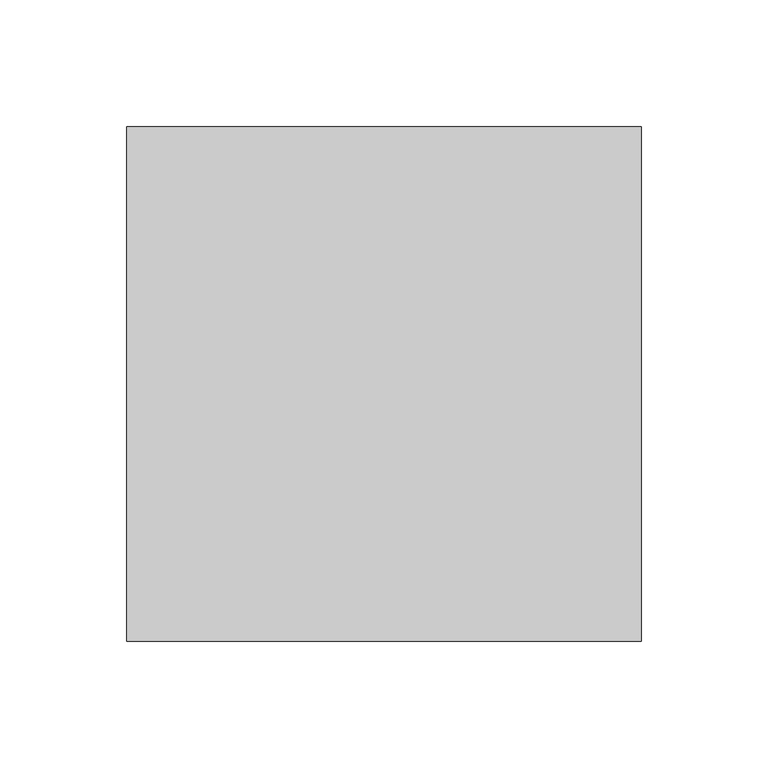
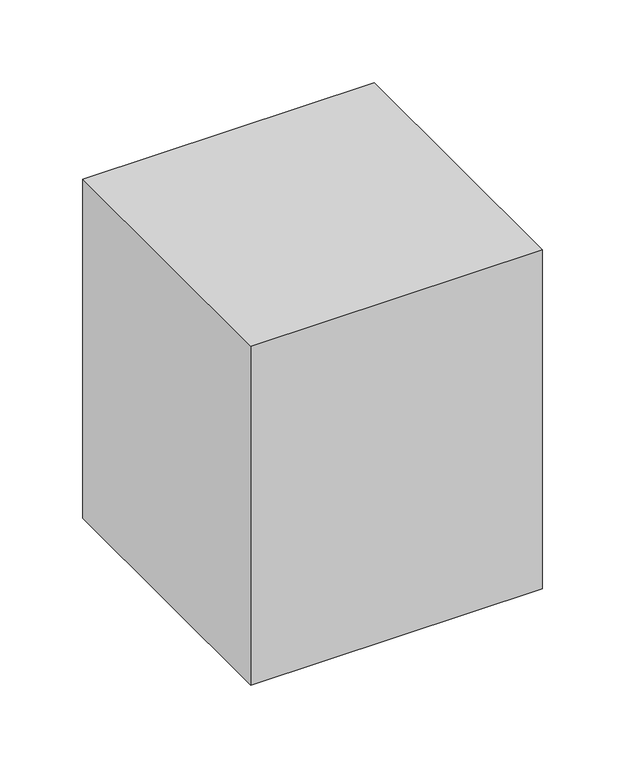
"""IFC4 building model written with IfcOpenShell, lengths in millimetres: proxy geometry, Placeholder_Polyseam : Placeholder_Polyseam."""

from ifc_helpers import new_model, si_unit, origin, origin_with_axes, place, context, project, spatial, polyline, outline, extrude, source, transform, mapped, element, save


def generic_models_c2e66827(model_context):
    return source(origin(), model_context, "Body", "SweptSolid", [
        extrude(outline(polyline([(-101.6, 101.6), (101.6, 101.6), (101.6, -101.6), (-101.6, -101.6), (-101.6, 101.6)])), origin_with_axes(), (0.0, 0.0, 1.0), 250.0),
    ])


if __name__ == "__main__":
    model = new_model("IFC4")
    model_context = context("Model", 3, world=origin())
    ifc_project = project(units=[si_unit("LENGTHUNIT", "METRE", prefix="MILLI")], contexts=[model_context])
    site = spatial("IfcSite", under=ifc_project)
    building = spatial("IfcBuilding", under=site)
    placement = place(None, origin())
    generic_models_shape = generic_models_c2e66827(model_context)
    element("IfcBuildingElementProxy", 1, Name="Placeholder_Polyseam : Placeholder_Polyseam", ObjectType="Placeholder_Polyseam : Placeholder_Polyseam", at=placement, inside=building, context=model_context, shape_type="MappedRepresentation", body=[
        mapped(generic_models_shape, transform((0.0, 0.0, 0.0), x_axis=(1.0, 0.0, 0.0), y_axis=(0.0, 1.0, 0.0), z_axis=(0.0, 0.0, 1.0))),
    ])
    save(model, "model.ifc")
